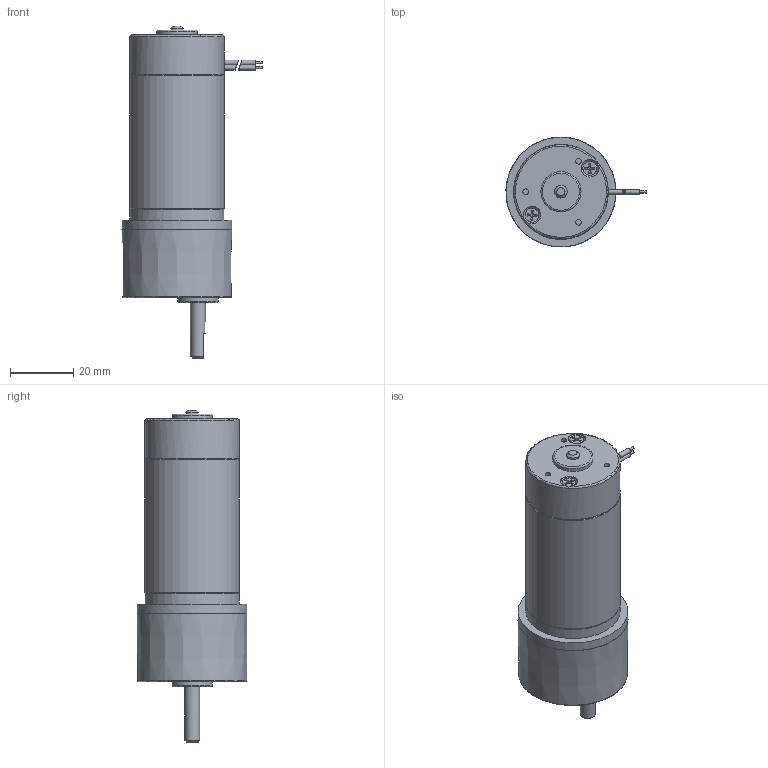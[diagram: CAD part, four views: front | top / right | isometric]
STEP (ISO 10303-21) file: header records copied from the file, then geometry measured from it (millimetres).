
FILE_DESCRIPTION((''),'2;1');
FILE_NAME('Z:\4_DC\새 폴더\RS3 SERIES\RS34ㅁㅁL(O~U).stp','2015-02-12T15:59:04',('kdhkdh'),(''),'Autodesk Inventor 2013','Autodesk Inventor 2013','');
FILE_SCHEMA(('AUTOMOTIVE_DESIGN { 1 0 10303 214 1 1 1 1 }'));
Length unit declared in the file: millimetre
Products named in the file (1): 부품2
Bounding box: 44.28 x 34.74 x 104.89 mm (x, y, z)
Volume: 64814.4 mm3; surface area: 11040.8 mm2
Topology: 2 solids, 7 shells, 203 faces, 500 edges, 325 vertices
Faces by surface type: plane 76, cylinder 60, cone 43, torus 24
Full cylindrical faces by diameter (mm): 0.76 x2, 1.56 x4, 1.8 x3, 2.156 x3, 2.5 x5, 2.6 x2, 2.7 x3, 4 x1, 4.4 x5, 4.76 x1, 5.5 x5, 12.7 x2, 29.8 x2, 30 x1, 34.7 x1
Entity records: 6114 total; most frequent: CARTESIAN_POINT 1753, DIRECTION 842, ORIENTED_EDGE 818, EDGE_CURVE 409, AXIS2_PLACEMENT_3D 377, VERTEX_POINT 296, EDGE_LOOP 290, FACE_OUTER_BOUND 203
